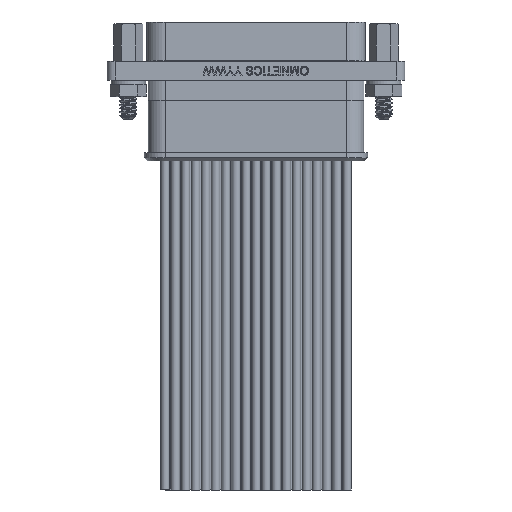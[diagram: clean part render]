
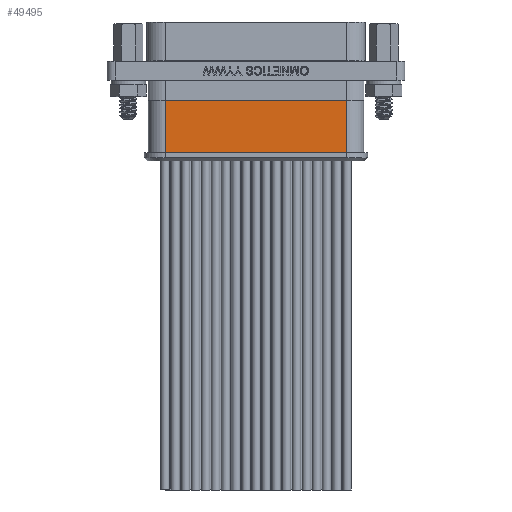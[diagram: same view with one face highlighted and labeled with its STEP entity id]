
A CAD part, front view. The second image highlights one B-rep face of the part: STEP entity #49495.
In plain terms, the highlighted planar face has unit normal (0, -1, 0).
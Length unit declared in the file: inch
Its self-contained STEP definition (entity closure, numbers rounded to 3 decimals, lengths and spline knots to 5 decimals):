
#3381 = LINE ( 'NONE', #44573, #50167 ) ;
#4084 = DIRECTION ( 'NONE',  ( -1., 0., 0. ) ) ;
#4652 = CARTESIAN_POINT ( 'NONE',  ( 0.4485, -0.104, -0.153 ) ) ;
#10452 = CARTESIAN_POINT ( 'NONE',  ( -0.4485, -0.104, -0.413 ) ) ;
#12409 = VERTEX_POINT ( 'NONE', #16370 ) ;
#13446 = LINE ( 'NONE', #13925, #38403 ) ;
#13925 = CARTESIAN_POINT ( 'NONE',  ( 0.4485, -0.104, -0.413 ) ) ;
#16370 = CARTESIAN_POINT ( 'NONE',  ( -0.4485, -0.104, -0.413 ) ) ;
#16727 = VERTEX_POINT ( 'NONE', #51734 ) ;
#17050 = ORIENTED_EDGE ( 'NONE', *, *, #39393, .F. ) ;
#17961 = CARTESIAN_POINT ( 'NONE',  ( 0.4485, -0.104, -0.413 ) ) ;
#21928 = EDGE_CURVE ( 'NONE', #16727, #42985, #52423, .T. ) ;
#25173 = ORIENTED_EDGE ( 'NONE', *, *, #39207, .F. ) ;
#29189 = ORIENTED_EDGE ( 'NONE', *, *, #37877, .F. ) ;
#30650 = DIRECTION ( 'NONE',  ( 1., 0., 0. ) ) ;
#32084 = DIRECTION ( 'NONE',  ( 0., 1., 0. ) ) ;
#34034 = EDGE_LOOP ( 'NONE', ( #50646, #29189, #17050, #25173 ) ) ;
#37877 = EDGE_CURVE ( 'NONE', #50580, #42985, #3381, .T. ) ;
#38403 = VECTOR ( 'NONE', #46677, 39.37008 ) ;
#38449 = FACE_OUTER_BOUND ( 'NONE', #34034, .T. ) ;
#39207 = EDGE_CURVE ( 'NONE', #16727, #12409, #13446, .T. ) ;
#39393 = EDGE_CURVE ( 'NONE', #12409, #50580, #52905, .T. ) ;
#40034 = AXIS2_PLACEMENT_3D ( 'NONE', #17961, #32084, #4084 ) ;
#40546 = VECTOR ( 'NONE', #43201, 39.37008 ) ;
#41506 = VECTOR ( 'NONE', #44846, 39.37008 ) ;
#42985 = VERTEX_POINT ( 'NONE', #4652 ) ;
#43201 = DIRECTION ( 'NONE',  ( 0., 0., 1. ) ) ;
#44573 = CARTESIAN_POINT ( 'NONE',  ( -0.4485, -0.104, -0.153 ) ) ;
#44846 = DIRECTION ( 'NONE',  ( 0., 0., 1. ) ) ;
#46677 = DIRECTION ( 'NONE',  ( -1., 0., 0. ) ) ;
#49495 = ADVANCED_FACE ( 'NONE', ( #38449 ), #59811, .F. ) ;
#49527 = CARTESIAN_POINT ( 'NONE',  ( 0.4485, -0.104, -0.413 ) ) ;
#50167 = VECTOR ( 'NONE', #30650, 39.37008 ) ;
#50580 = VERTEX_POINT ( 'NONE', #54581 ) ;
#50646 = ORIENTED_EDGE ( 'NONE', *, *, #21928, .T. ) ;
#51734 = CARTESIAN_POINT ( 'NONE',  ( 0.4485, -0.104, -0.413 ) ) ;
#52423 = LINE ( 'NONE', #49527, #41506 ) ;
#52905 = LINE ( 'NONE', #10452, #40546 ) ;
#54581 = CARTESIAN_POINT ( 'NONE',  ( -0.4485, -0.104, -0.153 ) ) ;
#59811 = PLANE ( 'NONE',  #40034 ) ;
